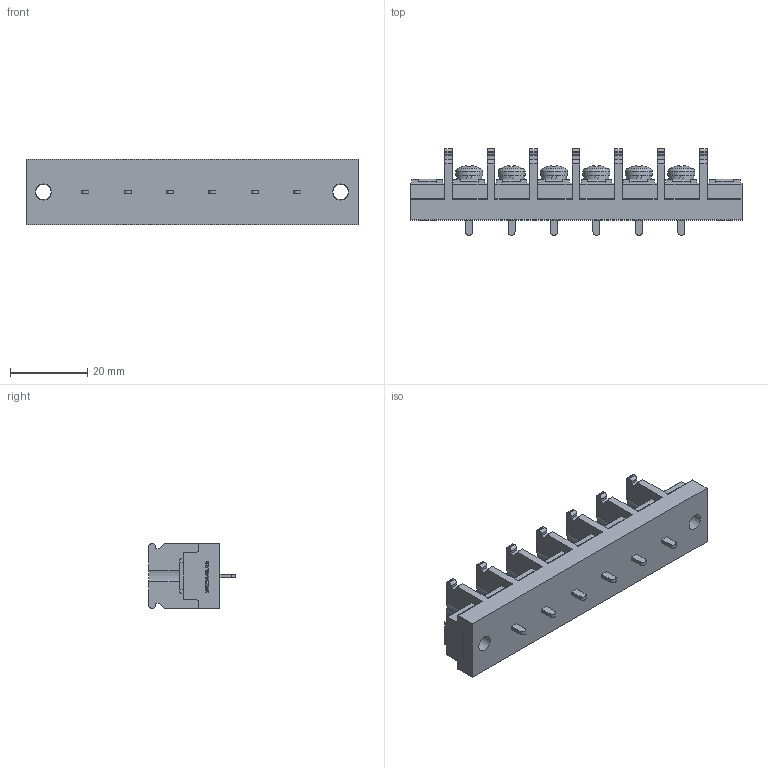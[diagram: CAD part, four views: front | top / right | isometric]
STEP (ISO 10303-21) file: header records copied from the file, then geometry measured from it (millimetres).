
FILE_DESCRIPTION(/* description */ ('Alibre Inc.'),/* implementation_level */ '2;1');
FILE_NAME(/* name */ 'export0',/* time_stamp */ '2015-10-19T19:08:14+09:00',/* author */ (''),/* organization */ (''),/* preprocessor_version */ 'ST-DEVELOPER v14',/* originating_system */ 'Alibre',/* authorisation */ '');
FILE_SCHEMA (('CONFIG_CONTROL_DESIGN'));
Length unit declared in the file: centimetre
Products named in the file (1): ID_1
Bounding box: 86 x 22.5 x 17 mm (x, y, z)
Volume: 15375.4 mm3; surface area: 8717.5 mm2
Topology: 1 solids, 1 shells, 894 faces, 2474 edges, 1644 vertices
Faces by surface type: plane 630, cylinder 118, bspline 104, cone 24, torus 12, sphere 6
Full cylindrical faces by diameter (mm): 4 x8, 4.2 x2, 6.5 x6, 7 x6
Entity records: 27659 total; most frequent: CARTESIAN_POINT 6050, ORIENTED_EDGE 4852, DIRECTION 3509, EDGE_CURVE 2426, VECTOR 1747, LINE 1747, VERTEX_POINT 1624, AXIS2_PLACEMENT_3D 1191
